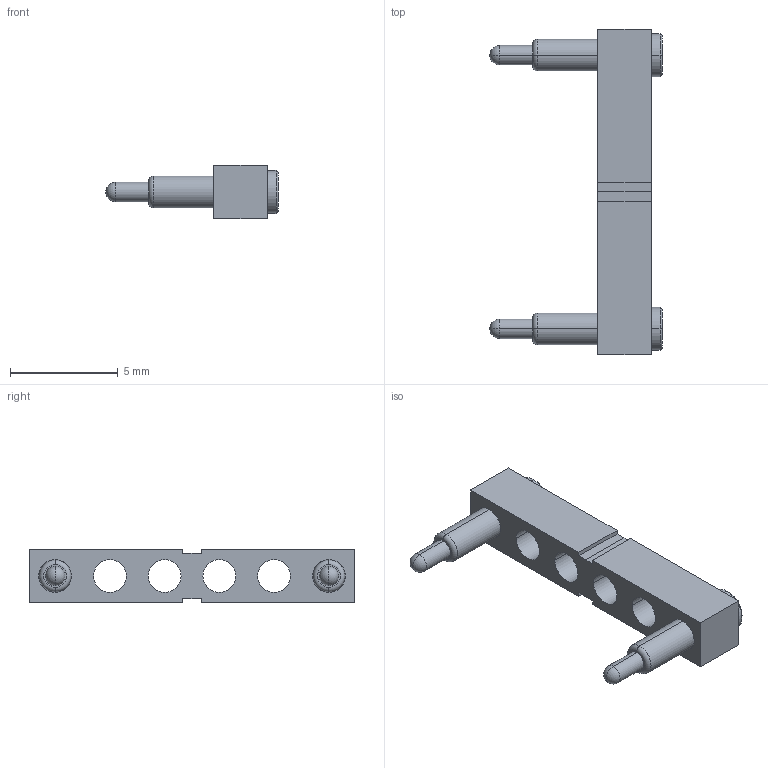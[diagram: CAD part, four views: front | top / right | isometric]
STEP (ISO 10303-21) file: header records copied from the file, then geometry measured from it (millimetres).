
FILE_DESCRIPTION((''),'2;1');
FILE_NAME('ASM0007_ASM','2023-06-07T10:34:43',('USER'),(''),'CREO PARAMETRIC BY PTC INC, 2020154','CREO PARAMETRIC BY PTC INC, 2020154','');
FILE_SCHEMA(('CONFIG_CONTROL_DESIGN'));
Length unit declared in the file: millimetre
Products named in the file (3): PRT0016; PRT0015; ASM0007_ASM
Assembly tree (3 placements, depth 2):
  ASM0007_ASM
    PRT0016
    PRT0015  x2
Bounding box: 8 x 15.1 x 2.5 mm (x, y, z)
Volume: 90.5 mm3; surface area: 293 mm2
Topology: 3 solids, 3 shells, 78 faces, 178 edges, 110 vertices
Faces by surface type: cylinder 36, plane 26, cone 8, sphere 4, torus 4
Entity records: 1664 total; most frequent: DIRECTION 300, CARTESIAN_POINT 266, ORIENTED_EDGE 252, EDGE_CURVE 126, AXIS2_PLACEMENT_3D 115, VERTEX_POINT 81, VECTOR 70, LINE 70
